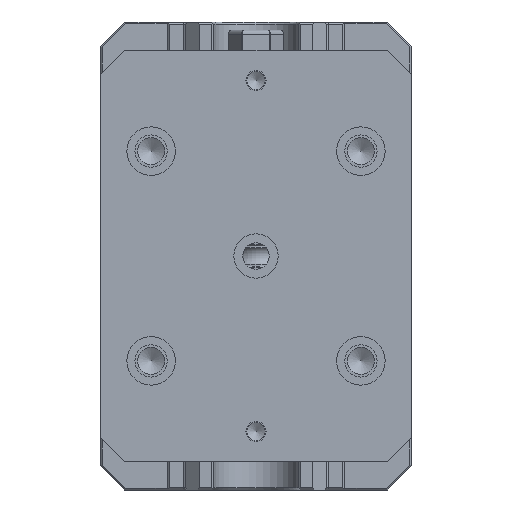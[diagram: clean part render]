
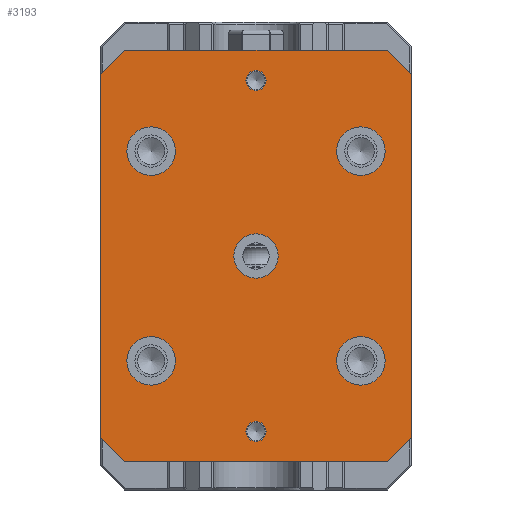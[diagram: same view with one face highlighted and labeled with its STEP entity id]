
A CAD part, front view. The second image highlights one B-rep face of the part: STEP entity #3193.
In plain terms, the highlighted planar face has unit normal (0, -1, 0).
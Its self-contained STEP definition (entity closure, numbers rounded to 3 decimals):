
#1682=PLANE('',#23690);
#2144=FACE_BOUND('',#5976,.T.);
#2145=FACE_BOUND('',#5977,.T.);
#2146=FACE_BOUND('',#5978,.T.);
#2147=FACE_BOUND('',#5979,.T.);
#2148=FACE_BOUND('',#5980,.T.);
#2149=FACE_BOUND('',#5981,.T.);
#2150=FACE_BOUND('',#5982,.T.);
#2151=FACE_BOUND('',#5983,.T.);
#3193=ADVANCED_FACE('',(#2144,#2145,#2146,#2147,#2148,#2149,#2150,#2151),
#1682,.F.);
#5976=EDGE_LOOP('',(#15475));
#5977=EDGE_LOOP('',(#15476));
#5978=EDGE_LOOP('',(#15477));
#5979=EDGE_LOOP('',(#15478));
#5980=EDGE_LOOP('',(#15479));
#5981=EDGE_LOOP('',(#15480,#15481,#15482,#15483,#15484,#15485,#15486,#15487));
#5982=EDGE_LOOP('',(#15488));
#5983=EDGE_LOOP('',(#15489));
#7864=LINE('',#42760,#9862);
#7935=LINE('',#43300,#9933);
#7936=LINE('',#43303,#9934);
#7937=LINE('',#43305,#9935);
#7938=LINE('',#43307,#9936);
#7939=LINE('',#43309,#9937);
#7940=LINE('',#43311,#9938);
#7941=LINE('',#43312,#9939);
#9862=VECTOR('',#28592,1.);
#9933=VECTOR('',#28691,1.);
#9934=VECTOR('',#28692,1.);
#9935=VECTOR('',#28693,1.);
#9936=VECTOR('',#28694,1.);
#9937=VECTOR('',#28695,1.);
#9938=VECTOR('',#28696,1.);
#9939=VECTOR('',#28697,1.);
#15475=ORIENTED_EDGE('',*,*,#21372,.T.);
#15476=ORIENTED_EDGE('',*,*,#21373,.T.);
#15477=ORIENTED_EDGE('',*,*,#21374,.T.);
#15478=ORIENTED_EDGE('',*,*,#21375,.T.);
#15479=ORIENTED_EDGE('',*,*,#21376,.T.);
#15480=ORIENTED_EDGE('',*,*,#21377,.F.);
#15481=ORIENTED_EDGE('',*,*,#21378,.T.);
#15482=ORIENTED_EDGE('',*,*,#21379,.F.);
#15483=ORIENTED_EDGE('',*,*,#21380,.T.);
#15484=ORIENTED_EDGE('',*,*,#21381,.T.);
#15485=ORIENTED_EDGE('',*,*,#21382,.T.);
#15486=ORIENTED_EDGE('',*,*,#21269,.T.);
#15487=ORIENTED_EDGE('',*,*,#21383,.T.);
#15488=ORIENTED_EDGE('',*,*,#21384,.F.);
#15489=ORIENTED_EDGE('',*,*,#21385,.T.);
#18337=VERTEX_POINT('',#42759);
#18338=VERTEX_POINT('',#42761);
#18434=VERTEX_POINT('',#43291);
#18435=VERTEX_POINT('',#43293);
#18436=VERTEX_POINT('',#43295);
#18437=VERTEX_POINT('',#43297);
#18438=VERTEX_POINT('',#43299);
#18439=VERTEX_POINT('',#43301);
#18440=VERTEX_POINT('',#43302);
#18441=VERTEX_POINT('',#43304);
#18442=VERTEX_POINT('',#43306);
#18443=VERTEX_POINT('',#43308);
#18444=VERTEX_POINT('',#43310);
#18445=VERTEX_POINT('',#43314);
#18446=VERTEX_POINT('',#43316);
#21269=EDGE_CURVE('',#18338,#18337,#7864,.T.);
#21372=EDGE_CURVE('',#18434,#18434,#22092,.T.);
#21373=EDGE_CURVE('',#18435,#18435,#22093,.T.);
#21374=EDGE_CURVE('',#18436,#18436,#22094,.T.);
#21375=EDGE_CURVE('',#18437,#18437,#22095,.T.);
#21376=EDGE_CURVE('',#18438,#18438,#22096,.T.);
#21377=EDGE_CURVE('',#18439,#18440,#7935,.T.);
#21378=EDGE_CURVE('',#18439,#18441,#7936,.T.);
#21379=EDGE_CURVE('',#18442,#18441,#7937,.T.);
#21380=EDGE_CURVE('',#18442,#18443,#7938,.T.);
#21381=EDGE_CURVE('',#18443,#18444,#7939,.T.);
#21382=EDGE_CURVE('',#18444,#18338,#7940,.T.);
#21383=EDGE_CURVE('',#18337,#18440,#7941,.T.);
#21384=EDGE_CURVE('',#18445,#18445,#22097,.T.);
#21385=EDGE_CURVE('',#18446,#18446,#22098,.T.);
#22092=CIRCLE('',#23683,6.);
#22093=CIRCLE('',#23684,6.);
#22094=CIRCLE('',#23685,6.);
#22095=CIRCLE('',#23686,6.);
#22096=CIRCLE('',#23687,5.5);
#22097=CIRCLE('',#23688,2.5);
#22098=CIRCLE('',#23689,2.5);
#23683=AXIS2_PLACEMENT_3D('',#43290,#28681,#28682);
#23684=AXIS2_PLACEMENT_3D('',#43292,#28683,#28684);
#23685=AXIS2_PLACEMENT_3D('',#43294,#28685,#28686);
#23686=AXIS2_PLACEMENT_3D('',#43296,#28687,#28688);
#23687=AXIS2_PLACEMENT_3D('',#43298,#28689,#28690);
#23688=AXIS2_PLACEMENT_3D('',#43313,#28698,#28699);
#23689=AXIS2_PLACEMENT_3D('',#43315,#28700,#28701);
#23690=AXIS2_PLACEMENT_3D('',#43317,#28702,#28703);
#28592=DIRECTION('',(-1.,0.,0.));
#28681=DIRECTION('',(0.,1.,0.));
#28682=DIRECTION('',(0.,0.,-1.));
#28683=DIRECTION('',(0.,1.,0.));
#28684=DIRECTION('',(0.,0.,-1.));
#28685=DIRECTION('',(0.,1.,0.));
#28686=DIRECTION('',(0.,0.,-1.));
#28687=DIRECTION('',(0.,1.,0.));
#28688=DIRECTION('',(0.,0.,-1.));
#28689=DIRECTION('',(0.,1.,0.));
#28690=DIRECTION('',(0.,0.,1.));
#28691=DIRECTION('',(0.,0.,1.));
#28692=DIRECTION('',(0.707,0.,-0.707));
#28693=DIRECTION('',(-1.,0.,0.));
#28694=DIRECTION('',(0.707,0.,0.707));
#28695=DIRECTION('',(0.,0.,1.));
#28696=DIRECTION('',(-0.707,0.,0.707));
#28697=DIRECTION('',(-0.707,0.,-0.707));
#28698=DIRECTION('',(0.,-1.,0.));
#28699=DIRECTION('',(0.,0.,-1.));
#28700=DIRECTION('',(0.,1.,0.));
#28701=DIRECTION('',(0.,0.,1.));
#28702=DIRECTION('',(0.,1.,0.));
#28703=DIRECTION('',(0.,0.,1.));
#42759=CARTESIAN_POINT('',(1061.552,691.636,-14.));
#42760=CARTESIAN_POINT('',(1132.552,691.636,-14.));
#42761=CARTESIAN_POINT('',(1126.552,691.636,-14.));
#43290=CARTESIAN_POINT('',(1068.052,691.636,-39.));
#43291=CARTESIAN_POINT('',(1068.052,691.636,-45.));
#43292=CARTESIAN_POINT('',(1068.052,691.636,-91.));
#43293=CARTESIAN_POINT('',(1068.052,691.636,-97.));
#43294=CARTESIAN_POINT('',(1120.052,691.636,-91.));
#43295=CARTESIAN_POINT('',(1120.052,691.636,-97.));
#43296=CARTESIAN_POINT('',(1120.052,691.636,-39.));
#43297=CARTESIAN_POINT('',(1120.052,691.636,-45.));
#43298=CARTESIAN_POINT('',(1094.052,691.636,-65.));
#43299=CARTESIAN_POINT('',(1094.052,691.636,-59.5));
#43300=CARTESIAN_POINT('',(1055.552,691.636,-130.));
#43301=CARTESIAN_POINT('',(1055.552,691.636,-110.));
#43302=CARTESIAN_POINT('',(1055.552,691.636,-20.));
#43303=CARTESIAN_POINT('',(1061.552,691.636,-116.));
#43304=CARTESIAN_POINT('',(1061.552,691.636,-116.));
#43305=CARTESIAN_POINT('',(1132.552,691.636,-116.));
#43306=CARTESIAN_POINT('',(1126.552,691.636,-116.));
#43307=CARTESIAN_POINT('',(1126.552,691.636,-116.));
#43308=CARTESIAN_POINT('',(1132.552,691.636,-110.));
#43309=CARTESIAN_POINT('',(1132.552,691.636,-130.));
#43310=CARTESIAN_POINT('',(1132.552,691.636,-20.));
#43311=CARTESIAN_POINT('',(1132.552,691.636,-20.));
#43312=CARTESIAN_POINT('',(1055.552,691.636,-20.));
#43313=CARTESIAN_POINT('',(1094.052,691.636,-108.5));
#43314=CARTESIAN_POINT('',(1094.052,691.636,-111.));
#43315=CARTESIAN_POINT('',(1094.052,691.636,-21.5));
#43316=CARTESIAN_POINT('',(1094.052,691.636,-19.));
#43317=CARTESIAN_POINT('',(1132.552,691.636,-130.));
